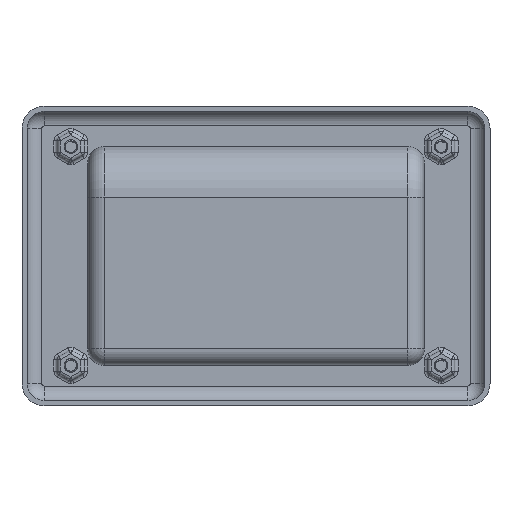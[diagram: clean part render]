
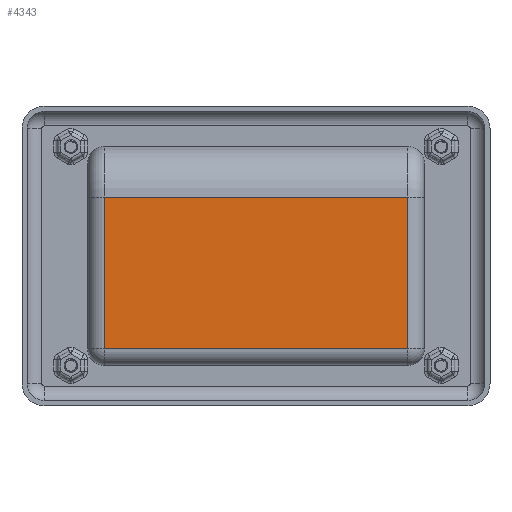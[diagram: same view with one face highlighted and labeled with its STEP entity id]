
A CAD part, front view. The second image highlights one B-rep face of the part: STEP entity #4343.
In plain terms, the highlighted planar face has unit normal (0, -1, 0).
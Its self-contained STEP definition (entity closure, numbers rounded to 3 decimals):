
#4 = EDGE_CURVE ( 'NONE', #13105, #7069, #349, .T. ) ;
#51 = CARTESIAN_POINT ( 'NONE',  ( 119.5, -25.8, -72. ) ) ;
#220 = DIRECTION ( 'NONE',  ( 0., 0., -1. ) ) ;
#276 = CARTESIAN_POINT ( 'NONE',  ( 24.5, -25.8, -72. ) ) ;
#349 = LINE ( 'NONE', #6023, #11675 ) ;
#649 = FACE_OUTER_BOUND ( 'NONE', #3563, .T. ) ;
#907 = EDGE_CURVE ( 'NONE', #7069, #6482, #10961, .T. ) ;
#1091 = EDGE_CURVE ( 'NONE', #6482, #4492, #9576, .T. ) ;
#1260 = PLANE ( 'NONE',  #6255 ) ;
#1544 = CARTESIAN_POINT ( 'NONE',  ( 114.5, -25.8, -27. ) ) ;
#1627 = DIRECTION ( 'NONE',  ( 1., 0., 0. ) ) ;
#1812 = ORIENTED_EDGE ( 'NONE', *, *, #907, .T. ) ;
#2540 = VECTOR ( 'NONE', #1627, 1000. ) ;
#2821 = CARTESIAN_POINT ( 'NONE',  ( 19.5, -25.8, -27. ) ) ;
#3563 = EDGE_LOOP ( 'NONE', ( #1812, #5455, #7932, #4684 ) ) ;
#4343 = ADVANCED_FACE ( 'NONE', ( #649 ), #1260, .T. ) ;
#4491 = CARTESIAN_POINT ( 'NONE',  ( 114.5, -25.8, -72. ) ) ;
#4492 = VERTEX_POINT ( 'NONE', #1544 ) ;
#4684 = ORIENTED_EDGE ( 'NONE', *, *, #4, .T. ) ;
#5227 = CARTESIAN_POINT ( 'NONE',  ( 114.5, -25.8, -27. ) ) ;
#5455 = ORIENTED_EDGE ( 'NONE', *, *, #1091, .T. ) ;
#6023 = CARTESIAN_POINT ( 'NONE',  ( 24.5, -25.8, -77. ) ) ;
#6255 = AXIS2_PLACEMENT_3D ( 'NONE', #13382, #6796, #220 ) ;
#6482 = VERTEX_POINT ( 'NONE', #4491 ) ;
#6796 = DIRECTION ( 'NONE',  ( 0., -1., 0. ) ) ;
#7069 = VERTEX_POINT ( 'NONE', #276 ) ;
#7932 = ORIENTED_EDGE ( 'NONE', *, *, #13353, .T. ) ;
#9576 = LINE ( 'NONE', #5227, #12174 ) ;
#9925 = LINE ( 'NONE', #2821, #12536 ) ;
#10961 = LINE ( 'NONE', #51, #2540 ) ;
#11675 = VECTOR ( 'NONE', #12631, 1000. ) ;
#12174 = VECTOR ( 'NONE', #14048, 1000. ) ;
#12204 = CARTESIAN_POINT ( 'NONE',  ( 24.5, -25.8, -27. ) ) ;
#12536 = VECTOR ( 'NONE', #13895, 1000. ) ;
#12631 = DIRECTION ( 'NONE',  ( 0., 0., -1. ) ) ;
#13105 = VERTEX_POINT ( 'NONE', #12204 ) ;
#13353 = EDGE_CURVE ( 'NONE', #4492, #13105, #9925, .T. ) ;
#13382 = CARTESIAN_POINT ( 'NONE',  ( 0., -25.8, 0. ) ) ;
#13895 = DIRECTION ( 'NONE',  ( -1., 0., 0. ) ) ;
#14048 = DIRECTION ( 'NONE',  ( 0., 0., 1. ) ) ;
